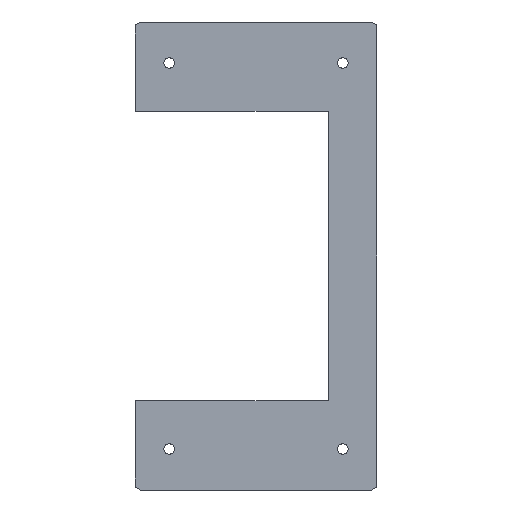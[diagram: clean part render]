
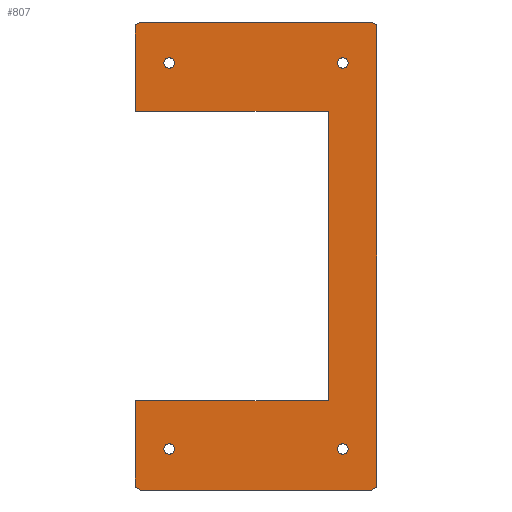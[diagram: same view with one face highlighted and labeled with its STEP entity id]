
A CAD part, front view. The second image highlights one B-rep face of the part: STEP entity #807.
In plain terms, the highlighted planar face has unit normal (0, -1, 0).
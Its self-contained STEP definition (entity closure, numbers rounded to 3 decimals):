
#38=DIRECTION('',(1.,0.,0.));
#39=VECTOR('',#38,40.);
#40=CARTESIAN_POINT('',(-25.,11.,30.));
#41=LINE('',#40,#39);
#42=DIRECTION('',(1.,0.,0.));
#43=VECTOR('',#42,40.);
#44=CARTESIAN_POINT('',(-25.,11.,-30.));
#45=LINE('',#44,#43);
#46=DIRECTION('',(0.,0.,-1.));
#47=VECTOR('',#46,60.);
#48=CARTESIAN_POINT('',(15.,11.,30.));
#49=LINE('',#48,#47);
#50=CARTESIAN_POINT('',(18.,11.,40.));
#51=DIRECTION('',(0.,-1.,0.));
#52=DIRECTION('',(0.,0.,-1.));
#53=AXIS2_PLACEMENT_3D('',#50,#51,#52);
#55=CARTESIAN_POINT('',(18.,11.,40.));
#56=DIRECTION('',(0.,-1.,0.));
#57=DIRECTION('',(0.,0.,1.));
#58=AXIS2_PLACEMENT_3D('',#55,#56,#57);
#60=CARTESIAN_POINT('',(18.,11.,-40.));
#61=DIRECTION('',(0.,-1.,0.));
#62=DIRECTION('',(0.,0.,-1.));
#63=AXIS2_PLACEMENT_3D('',#60,#61,#62);
#65=CARTESIAN_POINT('',(18.,11.,-40.));
#66=DIRECTION('',(0.,-1.,0.));
#67=DIRECTION('',(0.,0.,1.));
#68=AXIS2_PLACEMENT_3D('',#65,#66,#67);
#70=CARTESIAN_POINT('',(-18.,11.,40.));
#71=DIRECTION('',(0.,-1.,0.));
#72=DIRECTION('',(0.,0.,-1.));
#73=AXIS2_PLACEMENT_3D('',#70,#71,#72);
#75=CARTESIAN_POINT('',(-18.,11.,40.));
#76=DIRECTION('',(0.,-1.,0.));
#77=DIRECTION('',(0.,0.,1.));
#78=AXIS2_PLACEMENT_3D('',#75,#76,#77);
#80=CARTESIAN_POINT('',(-18.,11.,-40.));
#81=DIRECTION('',(0.,-1.,0.));
#82=DIRECTION('',(0.,0.,-1.));
#83=AXIS2_PLACEMENT_3D('',#80,#81,#82);
#85=CARTESIAN_POINT('',(-18.,11.,-40.));
#86=DIRECTION('',(0.,-1.,0.));
#87=DIRECTION('',(0.,0.,1.));
#88=AXIS2_PLACEMENT_3D('',#85,#86,#87);
#98=DIRECTION('',(0.,0.,1.));
#99=VECTOR('',#98,17.884);
#100=CARTESIAN_POINT('',(-25.,11.,30.));
#101=LINE('',#100,#99);
#268=DIRECTION('',(0.,0.,1.));
#269=VECTOR('',#268,17.884);
#270=CARTESIAN_POINT('',(-25.,11.,-47.884));
#271=LINE('',#270,#269);
#280=DIRECTION('',(-0.864,0.,0.504));
#281=VECTOR('',#280,1.222);
#282=CARTESIAN_POINT('',(-23.945,11.,-48.5));
#283=LINE('',#282,#281);
#296=DIRECTION('',(-1.,0.,0.));
#297=VECTOR('',#296,47.89);
#298=CARTESIAN_POINT('',(23.945,11.,-48.5));
#299=LINE('',#298,#297);
#308=DIRECTION('',(-0.864,0.,-0.504));
#309=VECTOR('',#308,1.222);
#310=CARTESIAN_POINT('',(25.,11.,-47.884));
#311=LINE('',#310,#309);
#324=DIRECTION('',(0.,0.,-1.));
#325=VECTOR('',#324,95.769);
#326=CARTESIAN_POINT('',(25.,11.,47.884));
#327=LINE('',#326,#325);
#336=DIRECTION('',(0.864,0.,-0.504));
#337=VECTOR('',#336,1.222);
#338=CARTESIAN_POINT('',(23.945,11.,48.5));
#339=LINE('',#338,#337);
#352=DIRECTION('',(1.,0.,0.));
#353=VECTOR('',#352,47.89);
#354=CARTESIAN_POINT('',(-23.945,11.,48.5));
#355=LINE('',#354,#353);
#364=DIRECTION('',(0.864,0.,0.504));
#365=VECTOR('',#364,1.222);
#366=CARTESIAN_POINT('',(-25.,11.,47.884));
#367=LINE('',#366,#365);
#553=CARTESIAN_POINT('',(15.,11.,30.));
#555=VERTEX_POINT('',#553);
#557=CARTESIAN_POINT('',(15.,11.,-30.));
#559=VERTEX_POINT('',#557);
#592=CARTESIAN_POINT('',(-23.945,11.,-48.5));
#593=CARTESIAN_POINT('',(-25.,11.,-47.884));
#594=VERTEX_POINT('',#592);
#595=VERTEX_POINT('',#593);
#596=CARTESIAN_POINT('',(-25.,11.,47.884));
#597=CARTESIAN_POINT('',(-23.945,11.,48.5));
#598=VERTEX_POINT('',#596);
#599=VERTEX_POINT('',#597);
#600=CARTESIAN_POINT('',(23.945,11.,48.5));
#601=VERTEX_POINT('',#600);
#602=CARTESIAN_POINT('',(25.,11.,47.884));
#603=VERTEX_POINT('',#602);
#604=CARTESIAN_POINT('',(25.,11.,-47.884));
#605=VERTEX_POINT('',#604);
#606=CARTESIAN_POINT('',(23.945,11.,-48.5));
#607=VERTEX_POINT('',#606);
#616=CARTESIAN_POINT('',(-25.,11.,-30.));
#618=VERTEX_POINT('',#616);
#620=CARTESIAN_POINT('',(-25.,11.,30.));
#622=VERTEX_POINT('',#620);
#624=CARTESIAN_POINT('',(18.,11.,38.9));
#625=CARTESIAN_POINT('',(18.,11.,41.1));
#626=VERTEX_POINT('',#624);
#627=VERTEX_POINT('',#625);
#628=CARTESIAN_POINT('',(18.,11.,-41.1));
#629=CARTESIAN_POINT('',(18.,11.,-38.9));
#630=VERTEX_POINT('',#628);
#631=VERTEX_POINT('',#629);
#632=CARTESIAN_POINT('',(-18.,11.,38.9));
#633=CARTESIAN_POINT('',(-18.,11.,41.1));
#634=VERTEX_POINT('',#632);
#635=VERTEX_POINT('',#633);
#636=CARTESIAN_POINT('',(-18.,11.,-41.1));
#637=CARTESIAN_POINT('',(-18.,11.,-38.9));
#638=VERTEX_POINT('',#636);
#639=VERTEX_POINT('',#637);
#754=CARTESIAN_POINT('',(0.,11.,0.));
#755=DIRECTION('',(0.,1.,0.));
#756=DIRECTION('',(1.,0.,0.));
#757=AXIS2_PLACEMENT_3D('',#754,#755,#756);
#758=PLANE('',#757);
#759=ORIENTED_EDGE('',*,*,#734,.F.);
#761=ORIENTED_EDGE('',*,*,#760,.T.);
#763=ORIENTED_EDGE('',*,*,#762,.T.);
#765=ORIENTED_EDGE('',*,*,#764,.T.);
#767=ORIENTED_EDGE('',*,*,#766,.T.);
#769=ORIENTED_EDGE('',*,*,#768,.T.);
#771=ORIENTED_EDGE('',*,*,#770,.T.);
#773=ORIENTED_EDGE('',*,*,#772,.T.);
#775=ORIENTED_EDGE('',*,*,#774,.T.);
#777=ORIENTED_EDGE('',*,*,#776,.T.);
#779=ORIENTED_EDGE('',*,*,#778,.T.);
#780=ORIENTED_EDGE('',*,*,#745,.F.);
#781=EDGE_LOOP('',(#759,#761,#763,#765,#767,#769,#771,#773,#775,#777,#779,
#780));
#782=FACE_OUTER_BOUND('',#781,.F.);
#784=ORIENTED_EDGE('',*,*,#783,.T.);
#786=ORIENTED_EDGE('',*,*,#785,.T.);
#787=EDGE_LOOP('',(#784,#786));
#788=FACE_BOUND('',#787,.F.);
#790=ORIENTED_EDGE('',*,*,#789,.T.);
#792=ORIENTED_EDGE('',*,*,#791,.T.);
#793=EDGE_LOOP('',(#790,#792));
#794=FACE_BOUND('',#793,.F.);
#796=ORIENTED_EDGE('',*,*,#795,.T.);
#798=ORIENTED_EDGE('',*,*,#797,.T.);
#799=EDGE_LOOP('',(#796,#798));
#800=FACE_BOUND('',#799,.F.);
#802=ORIENTED_EDGE('',*,*,#801,.T.);
#804=ORIENTED_EDGE('',*,*,#803,.T.);
#805=EDGE_LOOP('',(#802,#804));
#806=FACE_BOUND('',#805,.F.);
#807=ADVANCED_FACE('',(#782,#788,#794,#800,#806),#758,.F.);
#54=CIRCLE('',#53,1.1);
#59=CIRCLE('',#58,1.1);
#64=CIRCLE('',#63,1.1);
#69=CIRCLE('',#68,1.1);
#74=CIRCLE('',#73,1.1);
#79=CIRCLE('',#78,1.1);
#84=CIRCLE('',#83,1.1);
#89=CIRCLE('',#88,1.1);
#734=EDGE_CURVE('',#622,#555,#41,.T.);
#745=EDGE_CURVE('',#555,#559,#49,.T.);
#760=EDGE_CURVE('',#622,#598,#101,.T.);
#762=EDGE_CURVE('',#598,#599,#367,.T.);
#764=EDGE_CURVE('',#599,#601,#355,.T.);
#766=EDGE_CURVE('',#601,#603,#339,.T.);
#768=EDGE_CURVE('',#603,#605,#327,.T.);
#770=EDGE_CURVE('',#605,#607,#311,.T.);
#772=EDGE_CURVE('',#607,#594,#299,.T.);
#774=EDGE_CURVE('',#594,#595,#283,.T.);
#776=EDGE_CURVE('',#595,#618,#271,.T.);
#778=EDGE_CURVE('',#618,#559,#45,.T.);
#783=EDGE_CURVE('',#626,#627,#54,.T.);
#785=EDGE_CURVE('',#627,#626,#59,.T.);
#789=EDGE_CURVE('',#630,#631,#64,.T.);
#791=EDGE_CURVE('',#631,#630,#69,.T.);
#795=EDGE_CURVE('',#634,#635,#74,.T.);
#797=EDGE_CURVE('',#635,#634,#79,.T.);
#801=EDGE_CURVE('',#638,#639,#84,.T.);
#803=EDGE_CURVE('',#639,#638,#89,.T.);
